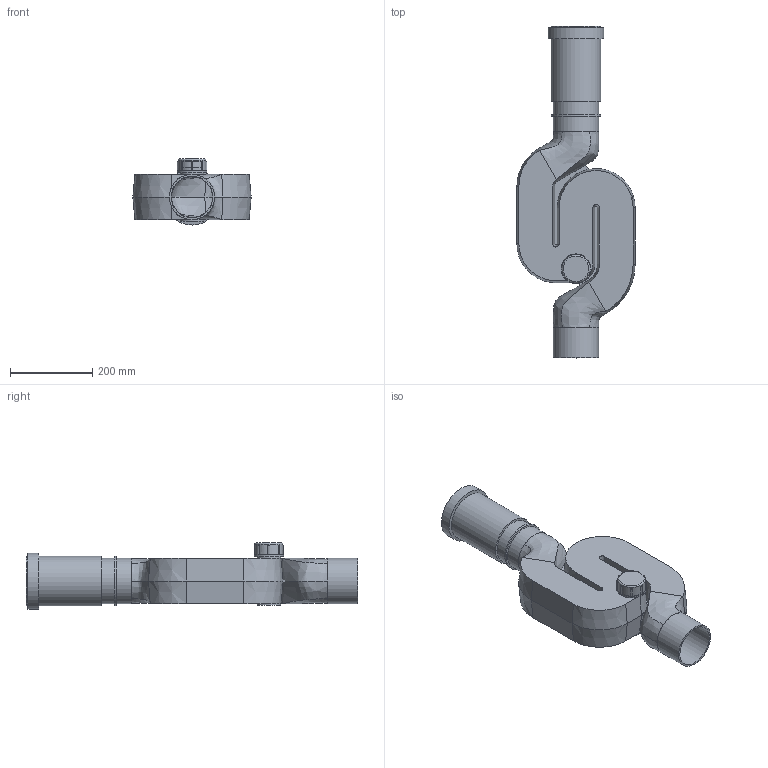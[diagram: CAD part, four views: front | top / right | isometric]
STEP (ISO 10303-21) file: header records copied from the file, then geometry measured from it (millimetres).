
FILE_DESCRIPTION(/* description */ (''),/* implementation_level */ '2;1');
FILE_NAME(/* name */ 'H:\Geberit-Teile\Export\367.813.16.1-\stp\367813.stp',/* time_stamp */ '2018-12-17T12:50:38+01:00',/* author */ ('seihe2'),/* organization */ (''),/* preprocessor_version */ 'ST-DEVELOPER v15.2',/* originating_system */ 'Autodesk Inventor 2014',/* authorisation */ '');
FILE_SCHEMA (('AUTOMOTIVE_DESIGN { 1 0 10303 214 3 1 1 }'));
Length unit declared in the file: millimetre
Products named in the file (1): 367813
Bounding box: 288 x 808 x 160.76 mm (x, y, z)
Volume: 2579368.1 mm3; surface area: 1076727 mm2
Topology: 5 solids, 5 shells, 171 faces, 461 edges, 292 vertices
Faces by surface type: plane 58, cone 48, cylinder 30, bspline 24, sphere 8, torus 3
Full cylindrical faces by diameter (mm): 50.9 x1, 57 x3, 57.3 x2, 58 x1, 62 x1, 68 x1, 72 x1, 101.35 x1, 101.4 x1, 110 x1, 110.4 x2, 111.7 x1, 112.2 x1, 120.4 x1, 120.75 x1, 121.25 x1, 127.3 x1, 136.35 x1
Entity records: 12218 total; most frequent: CARTESIAN_POINT 8111, ORIENTED_EDGE 820, DIRECTION 737, EDGE_CURVE 410, AXIS2_PLACEMENT_3D 300, VERTEX_POINT 288, EDGE_LOOP 220, STYLED_ITEM 176
